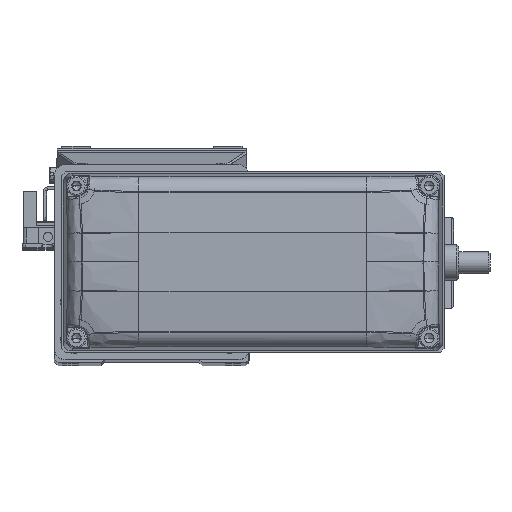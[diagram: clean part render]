
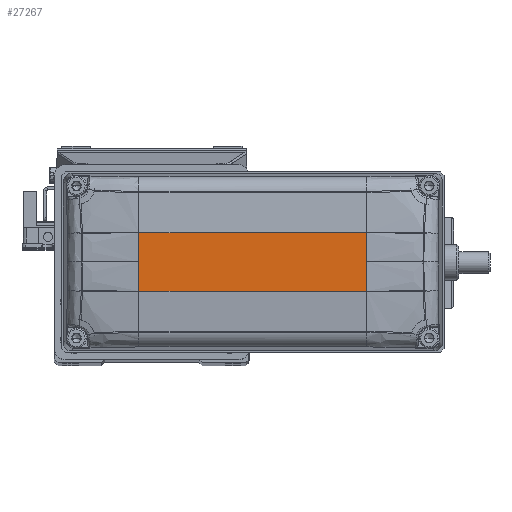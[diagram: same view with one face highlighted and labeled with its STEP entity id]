
A CAD part, top view. The second image highlights one B-rep face of the part: STEP entity #27267.
In plain terms, the highlighted planar face has unit normal (0, 0, 1).
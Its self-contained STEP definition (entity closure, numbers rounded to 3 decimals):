
#410 = VERTEX_POINT ( 'NONE', #42102 ) ;
#3959 = PLANE ( 'NONE',  #26248 ) ;
#5002 = DIRECTION ( 'NONE',  ( 1., 0., 0. ) ) ;
#5597 = EDGE_CURVE ( 'NONE', #35336, #410, #42559, .T. ) ;
#6055 = VECTOR ( 'NONE', #25714, 1000. ) ;
#7388 = CARTESIAN_POINT ( 'NONE',  ( -9.759, 35.9, 689.9 ) ) ;
#8048 = DIRECTION ( 'NONE',  ( 0., 1., 0. ) ) ;
#8084 = CARTESIAN_POINT ( 'NONE',  ( -9.759, 35.9, 689.9 ) ) ;
#8385 = CARTESIAN_POINT ( 'NONE',  ( 53.44, 27.8, 689.9 ) ) ;
#10089 = EDGE_CURVE ( 'NONE', #39929, #16066, #30372, .T. ) ;
#11056 = ORIENTED_EDGE ( 'NONE', *, *, #5597, .F. ) ;
#11171 = VERTEX_POINT ( 'NONE', #22673 ) ;
#12355 = EDGE_CURVE ( 'NONE', #18482, #410, #33289, .T. ) ;
#13485 = EDGE_CURVE ( 'NONE', #35336, #11171, #16847, .T. ) ;
#14320 = DIRECTION ( 'NONE',  ( 0., -1., 0. ) ) ;
#14359 = DIRECTION ( 'NONE',  ( 0., 0., 1. ) ) ;
#15794 = CARTESIAN_POINT ( 'NONE',  ( 21.74, 19.7, 689.9 ) ) ;
#15838 = DIRECTION ( 'NONE',  ( 0., 1., 0. ) ) ;
#16066 = VERTEX_POINT ( 'NONE', #35717 ) ;
#16805 = DIRECTION ( 'NONE',  ( 1., 0., 0. ) ) ;
#16847 = LINE ( 'NONE', #8084, #6055 ) ;
#18206 = CARTESIAN_POINT ( 'NONE',  ( 21.74, 27.8, 689.9 ) ) ;
#18482 = VERTEX_POINT ( 'NONE', #43385 ) ;
#19054 = VECTOR ( 'NONE', #5002, 1000. ) ;
#19526 = ORIENTED_EDGE ( 'NONE', *, *, #28162, .T. ) ;
#21115 = ORIENTED_EDGE ( 'NONE', *, *, #10089, .T. ) ;
#21463 = ORIENTED_EDGE ( 'NONE', *, *, #12355, .T. ) ;
#22448 = ORIENTED_EDGE ( 'NONE', *, *, #28505, .T. ) ;
#22673 = CARTESIAN_POINT ( 'NONE',  ( -9.76, 27.8, 689.9 ) ) ;
#23957 = CARTESIAN_POINT ( 'NONE',  ( 21.74, 35.9, 689.9 ) ) ;
#25349 = DIRECTION ( 'NONE',  ( 1., 0., 0. ) ) ;
#25714 = DIRECTION ( 'NONE',  ( 0., -1., 0. ) ) ;
#26248 = AXIS2_PLACEMENT_3D ( 'NONE', #18206, #14359, #25349 ) ;
#27267 = ADVANCED_FACE ( 'NONE', ( #45491 ), #3959, .T. ) ;
#28162 = EDGE_CURVE ( 'NONE', #16066, #18482, #43880, .T. ) ;
#28505 = EDGE_CURVE ( 'NONE', #11171, #39929, #33703, .T. ) ;
#30372 = LINE ( 'NONE', #15794, #19054 ) ;
#33238 = CARTESIAN_POINT ( 'NONE',  ( 53.44, 19.7, 689.9 ) ) ;
#33289 = LINE ( 'NONE', #8385, #38383 ) ;
#33703 = LINE ( 'NONE', #35569, #41062 ) ;
#35336 = VERTEX_POINT ( 'NONE', #7388 ) ;
#35417 = VECTOR ( 'NONE', #15838, 1000. ) ;
#35569 = CARTESIAN_POINT ( 'NONE',  ( -9.76, 27.8, 689.9 ) ) ;
#35717 = CARTESIAN_POINT ( 'NONE',  ( 53.44, 19.7, 689.9 ) ) ;
#35797 = VECTOR ( 'NONE', #16805, 1000. ) ;
#37906 = EDGE_LOOP ( 'NONE', ( #44586, #22448, #21115, #19526, #21463, #11056 ) ) ;
#38383 = VECTOR ( 'NONE', #8048, 1000. ) ;
#39929 = VERTEX_POINT ( 'NONE', #45824 ) ;
#41062 = VECTOR ( 'NONE', #14320, 1000. ) ;
#42102 = CARTESIAN_POINT ( 'NONE',  ( 53.44, 35.9, 689.9 ) ) ;
#42559 = LINE ( 'NONE', #23957, #35797 ) ;
#43385 = CARTESIAN_POINT ( 'NONE',  ( 53.44, 27.8, 689.9 ) ) ;
#43880 = LINE ( 'NONE', #33238, #35417 ) ;
#44586 = ORIENTED_EDGE ( 'NONE', *, *, #13485, .T. ) ;
#45491 = FACE_OUTER_BOUND ( 'NONE', #37906, .T. ) ;
#45824 = CARTESIAN_POINT ( 'NONE',  ( -9.759, 19.7, 689.9 ) ) ;
